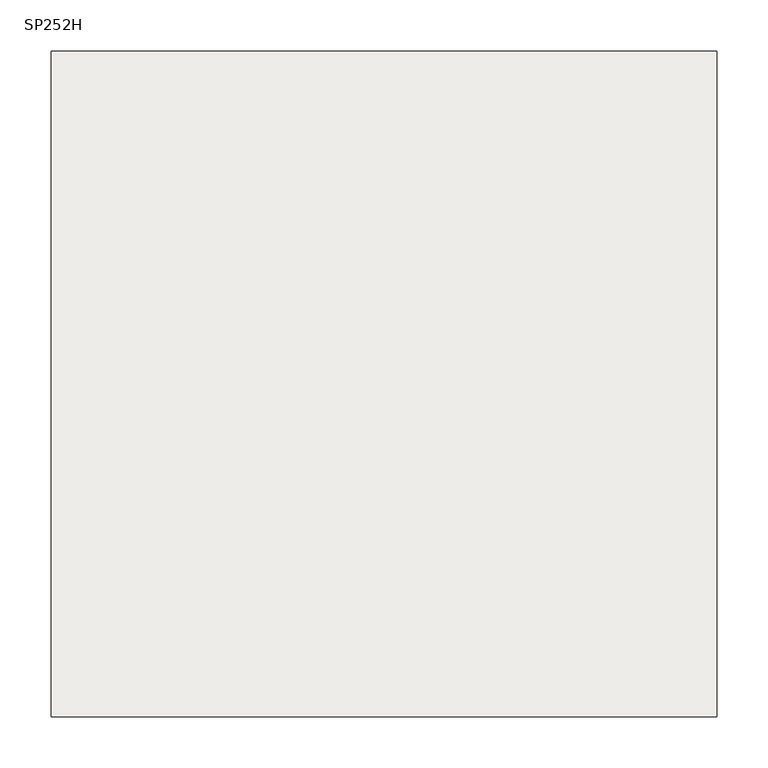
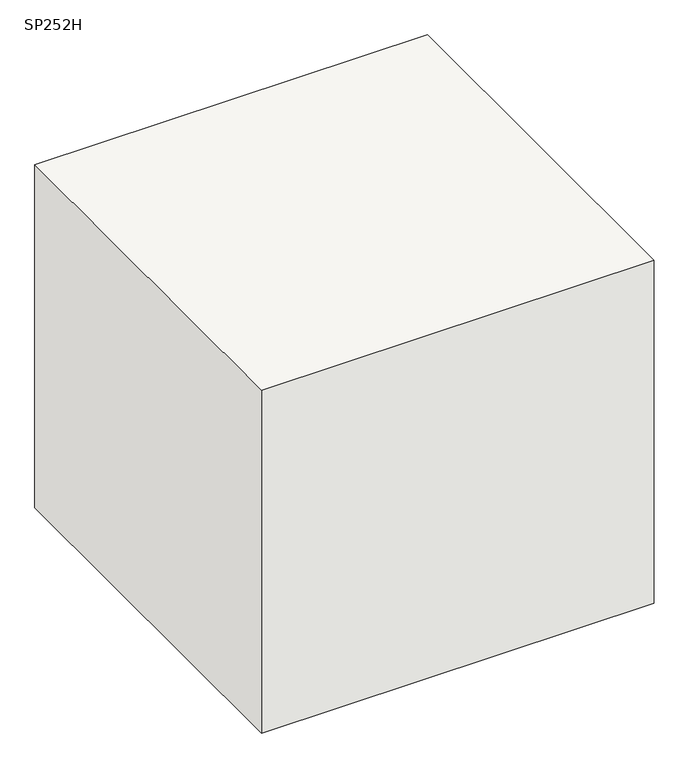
"""IFC4 building model written with IfcOpenShell, lengths in millimetres: slab geometry, 柱形_SP : SP252H."""

import ifcopenshell
import ifcopenshell.guid

model = None  # the IFC model being written
_history = None  # IfcOwnerHistory: only IFC2X3 demands one
_inside = {}  # id of a spatial element -> (the spatial element, [elements in it])
_under = {}  # id of a project, library or spatial element -> (it, [spatial elements below it])
_declared = {}  # id of a project -> (the project, [libraries it declares])
_typed = {}  # id of a type object -> (the type object, [elements of that type])
_made_of = {}  # id of a material, layer set ... -> (it, [elements and type objects made of it])


def new_model(schema):
    """Start an empty IFC model of exactly this schema.

    Asked for "IFC4X3", IfcOpenShell would pick the latest addendum, in which some entities
    have other attributes; the version numbers below select the first issue.
    IFC2X3 requires an IfcOwnerHistory on every rooted entity: one is made here for all.
    """
    global model, _history
    if schema == "IFC4X3":
        model = ifcopenshell.file(schema_version=(4, 3, 0, 0))
    else:
        model = ifcopenshell.file(schema=schema)
    _inside.clear()
    _under.clear()
    _declared.clear()
    _typed.clear()
    _made_of.clear()
    _history = None
    if model.schema == "IFC2X3":
        org = make("IfcOrganization", Name="unknown")
        user = make(
            "IfcPersonAndOrganization",
            ThePerson=make("IfcPerson", FamilyName="unknown"),
            TheOrganization=org,
        )
        app = make(
            "IfcApplication",
            ApplicationDeveloper=org,
            Version="unknown",
            ApplicationFullName="unknown",
            ApplicationIdentifier="unknown",
        )
        _history = make(
            "IfcOwnerHistory",
            OwningUser=user,
            OwningApplication=app,
            ChangeAction="ADDED",
            CreationDate=0,
        )
    return model


def make(cls, **values):
    """One entity of the class cls with the attributes given. An attribute that is None is left unset."""
    return model.create_entity(
        cls, **{name: value for name, value in values.items() if value is not None}
    )


def rooted(cls, **values):
    """An entity with a GlobalId (a new one), such as an element, a storey or a relation."""
    return make(cls, GlobalId=ifcopenshell.guid.new(), OwnerHistory=_history, **values)


def si_unit(unit_type, name, prefix=None):
    """IfcSIUnit, for example si_unit("LENGTHUNIT", "METRE", prefix="MILLI")."""
    return make("IfcSIUnit", UnitType=unit_type, Prefix=prefix, Name=name)


def assignment(units):
    """IfcUnitAssignment: the units of a project."""
    return None if units is None else make("IfcUnitAssignment", Units=units)


def point(xyz):
    """IfcCartesianPoint."""
    return None if xyz is None else make("IfcCartesianPoint", Coordinates=xyz)


def direction(xyz):
    """IfcDirection."""
    return None if xyz is None else make("IfcDirection", DirectionRatios=xyz)


def frame(location, z_axis=None, x_axis=None):
    """IfcAxis2Placement3D, a coordinate frame: its origin and axes. An axis left out is left unset."""
    return make(
        "IfcAxis2Placement3D",
        Location=point(location),
        Axis=direction(z_axis),
        RefDirection=direction(x_axis),
    )


def origin():
    """The frame at (0, 0, 0) with its axes left unset."""
    return frame((0.0, 0.0, 0.0))


def place(relative_to, where):
    """IfcLocalPlacement: puts the frame where relative to a parent placement (None: the world)."""
    return make(
        "IfcLocalPlacement", PlacementRelTo=relative_to, RelativePlacement=where
    )


def context(
    kind, dimensions, precision=None, world=None, true_north=None, identifier=None
):
    """IfcGeometricRepresentationContext, for example the 3D "Model" context."""
    return make(
        "IfcGeometricRepresentationContext",
        ContextIdentifier=identifier,
        ContextType=kind,
        CoordinateSpaceDimension=dimensions,
        Precision=precision,
        WorldCoordinateSystem=world,
        TrueNorth=true_north,
    )


def project(units=None, contexts=None):
    """IfcProject with its units and contexts."""
    return rooted(
        "IfcProject",
        Name="project",
        RepresentationContexts=contexts,
        UnitsInContext=assignment(units),
    )


def spatial(cls, under=None, at=None, **own):
    """A site, building, storey or space (cls), placed at a placement, below another one or the project."""
    s = rooted(cls, ObjectPlacement=at, **own)
    if under is not None:
        _under.setdefault(under.id(), (under, []))[1].append(s)
    return s


def polyline(points):
    """IfcPolyline through the points."""
    return make("IfcPolyline", Points=[point(p) for p in points])


def outline(outer, holes=None, kind="AREA"):
    """IfcArbitraryClosedProfileDef: a profile drawn as a closed curve; with holes, ...WithVoids."""
    if holes is None:
        return make("IfcArbitraryClosedProfileDef", ProfileType=kind, OuterCurve=outer)
    return make(
        "IfcArbitraryProfileDefWithVoids",
        ProfileType=kind,
        OuterCurve=outer,
        InnerCurves=holes,
    )


def extrude(swept, where, along, depth):
    """IfcExtrudedAreaSolid: the profile swept, set in the frame where, extruded along a direction by depth."""
    return make(
        "IfcExtrudedAreaSolid",
        SweptArea=swept,
        Position=where,
        ExtrudedDirection=direction(along),
        Depth=depth,
    )


def shape(context_of_items, identifier, shape_type, items):
    """IfcShapeRepresentation: the items that make up one representation, for example the "Body"."""
    return make(
        "IfcShapeRepresentation",
        ContextOfItems=context_of_items,
        RepresentationIdentifier=identifier,
        RepresentationType=shape_type,
        Items=items,
    )


def source(mapping_origin, context_of_items, identifier, shape_type, items):
    """IfcRepresentationMap: a shape defined once, which mapped items show again and again."""
    return make(
        "IfcRepresentationMap",
        MappingOrigin=mapping_origin,
        MappedRepresentation=shape(context_of_items, identifier, shape_type, items),
    )


def transform(
    local_origin,
    x_axis=None,
    y_axis=None,
    z_axis=None,
    scale=None,
    scale2=None,
    scale3=None,
    uniform=True,
):
    """IfcCartesianTransformationOperator3D, or its non-uniform kind. x_axis, y_axis, z_axis: its Axis1, 2, 3."""
    if uniform:
        return make(
            "IfcCartesianTransformationOperator3D",
            Axis1=direction(x_axis),
            Axis2=direction(y_axis),
            LocalOrigin=point(local_origin),
            Scale=scale,
            Axis3=direction(z_axis),
        )
    return make(
        "IfcCartesianTransformationOperator3DnonUniform",
        Axis1=direction(x_axis),
        Axis2=direction(y_axis),
        LocalOrigin=point(local_origin),
        Scale=scale,
        Axis3=direction(z_axis),
        Scale2=scale2,
        Scale3=scale3,
    )


def mapped(mapping_source, mapping_target):
    """IfcMappedItem: shows the shape of a source again, moved by a transform."""
    return make(
        "IfcMappedItem", MappingSource=mapping_source, MappingTarget=mapping_target
    )


def made_of(thing, what):
    """Note that an element or type object is made of a material, layer set ...; save() writes the relation."""
    if what is not None:
        _made_of.setdefault(what.id(), (what, []))[1].append(thing)
    return thing


def element(
    cls,
    number,
    at=None,
    inside=None,
    cuts=None,
    type_object=None,
    material=None,
    context=None,
    identifier="Body",
    shape_type=None,
    held_by="IfcProductDefinitionShape",
    body=None,
    shapes=None,
    **own,
):
    """One element of the class cls, such as IfcWall. Its Tag is "e" and its number.

    at: its placement. inside: the storey or other place that contains it. cuts: it is an
    opening in that element (IfcRelVoidsElement). A single representation is given by context,
    identifier, shape_type and body (its items); several are given by shapes. held_by: the class
    of the entity that holds the representations. save() writes the other relations.
    """
    e = rooted(cls, Tag="e%d" % number, ObjectPlacement=at, **own)
    if body is not None:
        shapes = [shape(context, identifier, shape_type, body)]
    if shapes is not None:
        e.Representation = make(held_by, Representations=shapes)
    if inside is not None:
        _inside.setdefault(inside.id(), (inside, []))[1].append(e)
    if cuts is not None:
        rooted(
            "IfcRelVoidsElement", RelatingBuildingElement=cuts, RelatedOpeningElement=e
        )
    if type_object is not None:
        _typed.setdefault(type_object.id(), (type_object, []))[1].append(e)
    return made_of(e, material)


def aggregate(whole, parts):
    """IfcRelAggregates: a whole, such as a stair, and the parts it consists of."""
    return rooted("IfcRelAggregates", RelatingObject=whole, RelatedObjects=parts)


def save(model, path):
    """Write the relations noted so far, then the file.

    IfcRelAggregates (storeys below a building ...), IfcRelContainedInSpatialStructure (elements
    in a storey), IfcRelDefinesByType, IfcRelAssociatesMaterial and IfcRelDeclares: one each for
    every whole, place, type object, material and project.
    """
    for whole, parts in _under.values():
        aggregate(whole, parts)
    for where, things in _inside.values():
        rooted(
            "IfcRelContainedInSpatialStructure",
            RelatedElements=things,
            RelatingStructure=where,
        )
    for kind, things in _typed.values():
        rooted("IfcRelDefinesByType", RelatedObjects=things, RelatingType=kind)
    for what, things in _made_of.values():
        rooted("IfcRelAssociatesMaterial", RelatedObjects=things, RelatingMaterial=what)
    for by, libraries in _declared.values():
        rooted("IfcRelDeclares", RelatingContext=by, RelatedDefinitions=libraries)
    model.write(path)


def sp252h_80b67837(model_context):
    return source(origin(), model_context, "Body", "SweptSolid", [
        extrude(outline(polyline([(325.0, 325.0), (325.0, -325.0), (-325.0, -325.0), (-325.0, 325.0), (325.0, 325.0)])), frame((0.0, 0.0, -600.0), z_axis=(0.0, 0.0, 1.0), x_axis=(1.0, 0.0, 0.0)), (0.0, 0.0, 1.0), 600.0),
    ])


if __name__ == "__main__":
    model = new_model("IFC4")
    model_context = context("Model", 3, world=origin())
    ifc_project = project(units=[si_unit("LENGTHUNIT", "METRE", prefix="MILLI")], contexts=[model_context])
    site = spatial("IfcSite", under=ifc_project)
    building = spatial("IfcBuilding", under=site)
    placement = place(None, origin())
    sp252h_shape = sp252h_80b67837(model_context)
    element("IfcSlab", 1, ObjectType="柱形_SP : SP252H", at=placement, inside=building, context=model_context, shape_type="MappedRepresentation", body=[
        mapped(sp252h_shape, transform((0.0, 0.0, 0.0), x_axis=(1.0, 0.0, 0.0), y_axis=(0.0, 1.0, 0.0), z_axis=(0.0, 0.0, 1.0))),
    ])
    save(model, "model.ifc")
